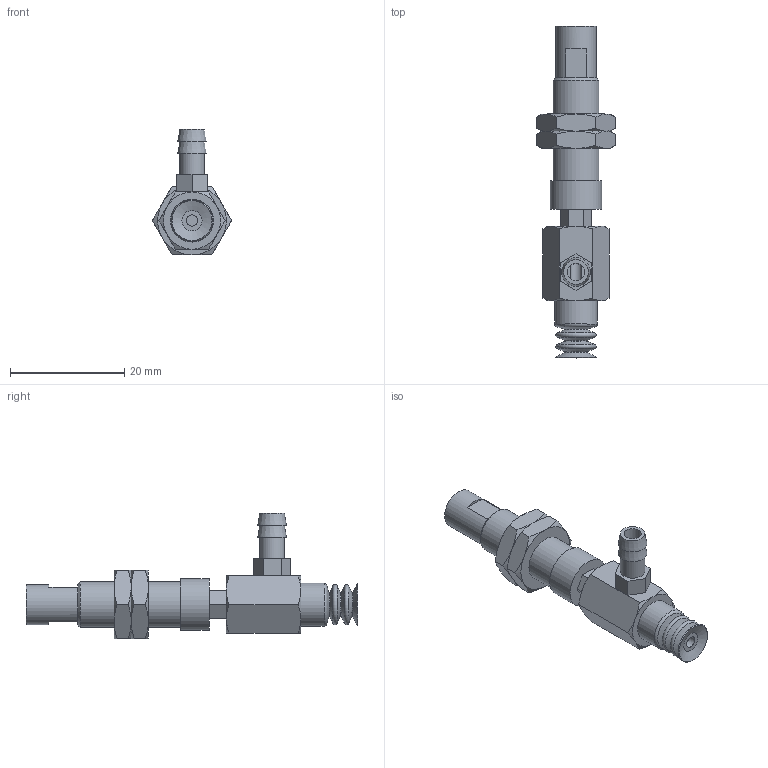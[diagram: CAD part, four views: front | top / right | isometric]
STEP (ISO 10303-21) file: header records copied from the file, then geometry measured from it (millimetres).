
FILE_DESCRIPTION(('STEP AP203'),'1');
FILE_NAME('-T.stp','2025-04-03T07:34:52',(' '),(' '),'Spatial InterOp 3D',' ',' ');
FILE_SCHEMA(('CONFIG_CONTROL_DESIGN'));
Length unit declared in the file: millimetre
Products named in the file (7): BNABPCYH-7-3-※-T; Connector_h-7-3; Nut napc_h-7-3; NAPCTH-7-3-FBODY; NAPCTH-7-3-MBODY; BPCG-7-※; T
Assembly tree (7 placements, depth 2):
  BNABPCYH-7-3-※-T
    Connector_h-7-3
    Nut napc_h-7-3  x2
    NAPCTH-7-3-FBODY
    NAPCTH-7-3-MBODY
    BPCG-7-※
    T
Bounding box: 13.86 x 58 x 22 mm (x, y, z)
Volume: 3509.3 mm3; surface area: 4517.8 mm2
Topology: 7 solids, 7 shells, 164 faces, 345 edges, 208 vertices
Faces by surface type: plane 75, cone 58, cylinder 18, torus 13
Full cylindrical faces by diameter (mm): 2 x2, 3 x1, 4 x2, 4.134 x2, 4.3 x1, 5 x2, 6 x2, 7 x1, 7.188 x2, 7.5 x1, 8 x1, 9 x1
Entity records: 4066 total; most frequent: CARTESIAN_POINT 919, DIRECTION 586, ORIENTED_EDGE 490, AXIS2_PLACEMENT_3D 246, EDGE_CURVE 245, EDGE_LOOP 214, VERTEX_POINT 177, FACE_OUTER_BOUND 171
